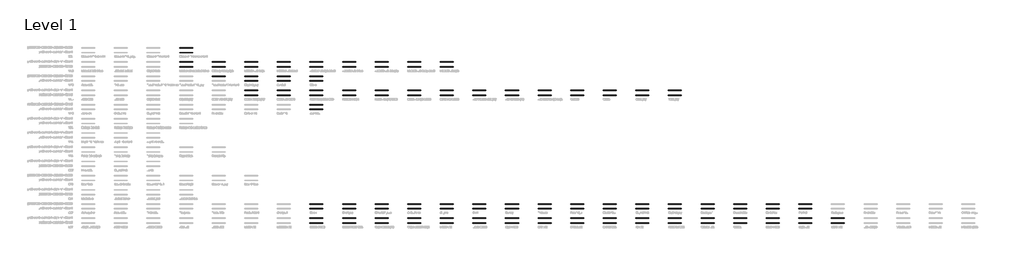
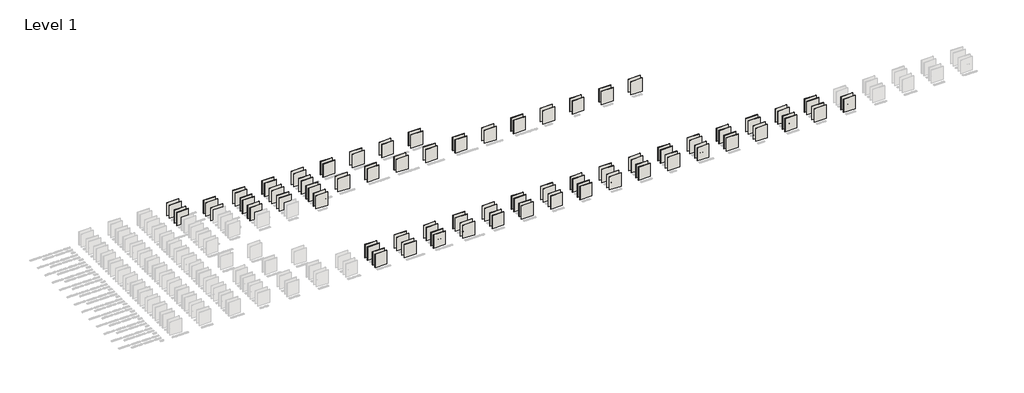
# One storey, part 2 of 110: 123 walls.
"""IFC4 building model written with IfcOpenShell, lengths in millimetres."""

from ifc_helpers import new_model, si_unit, origin, origin_with_axes, place, context, project, spatial, polyline, outline, extrude, element, save

model = new_model("IFC4")

# Units and contexts
model_context = context("Model", 3, world=origin())
ifc_project = project(units=[si_unit("LENGTHUNIT", "METRE", prefix="MILLI")], contexts=[model_context])

# Site, building, storey
site = spatial("IfcSite", under=ifc_project)
building = spatial("IfcBuilding", under=site)
storey = spatial("IfcBuildingStorey", under=building, Name="Level 1", Elevation=0.0)

# Walls
placement = place(None, origin())
element("IfcWall", 1, ObjectType="BERSfr_22_WA_parois de séparation - goujons métalliques - Clicwall BST Carrara creamy 2785x600x10 mm_Unilin", at=placement, inside=storey, context=model_context, shape_type="SweptSolid", body=[
    extrude(outline(polyline([(72694.8, 1179.2), (69342.0, 1179.2), (69342.0, 1259.2), (72694.8, 1259.2), (72694.8, 1179.2)])), origin_with_axes(), (0.0, 0.0, 1.0), 4000.0),
])
element("IfcWall", 2, ObjectType="BERSfr_22_WA_parois de séparation - goujons métalliques - panneau de particules - Clicwall BST Carrara creamy 2785x600x10 mm_Unilin", at=placement, inside=storey, context=model_context, shape_type="SweptSolid", body=[
    extrude(outline(polyline([(72694.8, 2392.4), (69342.0, 2392.4), (69342.0, 2484.4), (72694.8, 2484.4), (72694.8, 2392.4)])), origin_with_axes(), (0.0, 0.0, 1.0), 4000.0),
])
element("IfcWall", 3, ObjectType="BERSfr_22_WA_parois de séparation - goujons métalliques - Clicwall BST Carrara frosted white 2785x600x10 mm_Unilin", at=placement, inside=storey, context=model_context, shape_type="SweptSolid", body=[
    extrude(outline(polyline([(81076.8, 1179.2), (77724.0, 1179.2), (77724.0, 1259.2), (81076.8, 1259.2), (81076.8, 1179.2)])), origin_with_axes(), (0.0, 0.0, 1.0), 4000.0),
])
element("IfcWall", 4, ObjectType="BERSfr_22_WA_parois de séparation - goujons métalliques - panneau de particules - Clicwall BST Carrara frosted white 2785x600x10 mm_Unilin", at=placement, inside=storey, context=model_context, shape_type="SweptSolid", body=[
    extrude(outline(polyline([(81076.8, 2392.4), (77724.0, 2392.4), (77724.0, 2484.4), (81076.8, 2484.4), (81076.8, 2392.4)])), origin_with_axes(), (0.0, 0.0, 1.0), 4000.0),
])
element("IfcWall", 5, ObjectType="BERSfr_22_WA_parois de séparation - goujons métalliques - Clicwall BST Ceppo mineral grey 2785x600x10 mm_Unilin", at=placement, inside=storey, context=model_context, shape_type="SweptSolid", body=[
    extrude(outline(polyline([(89458.8, 1179.2), (86106.0, 1179.2), (86106.0, 1259.2), (89458.8, 1259.2), (89458.8, 1179.2)])), origin_with_axes(), (0.0, 0.0, 1.0), 4000.0),
])
element("IfcWall", 6, ObjectType="BERSfr_22_WA_parois de séparation - goujons métalliques - panneau de particules - Clicwall BST Ceppo mineral grey 2785x600x10 mm_Unilin", at=placement, inside=storey, context=model_context, shape_type="SweptSolid", body=[
    extrude(outline(polyline([(89458.8, 2392.4), (86106.0, 2392.4), (86106.0, 2484.4), (89458.8, 2484.4), (89458.8, 2392.4)])), origin_with_axes(), (0.0, 0.0, 1.0), 4000.0),
])
element("IfcWall", 7, ObjectType="BERSfr_22_WA_parois de séparation - goujons métalliques - Clicwall BST Ceppo seashore beige 2785x600x10 mm_Unilin", at=placement, inside=storey, context=model_context, shape_type="SweptSolid", body=[
    extrude(outline(polyline([(97840.8, 1179.2), (94488.0, 1179.2), (94488.0, 1259.2), (97840.8, 1259.2), (97840.8, 1179.2)])), origin_with_axes(), (0.0, 0.0, 1.0), 4000.0),
])
element("IfcWall", 8, ObjectType="BERSfr_22_WA_parois de séparation - goujons métalliques - panneau de particules - Clicwall BST Ceppo seashore beige 2785x600x10 mm_Unilin", at=placement, inside=storey, context=model_context, shape_type="SweptSolid", body=[
    extrude(outline(polyline([(97840.8, 2392.4), (94488.0, 2392.4), (94488.0, 2484.4), (97840.8, 2484.4), (97840.8, 2392.4)])), origin_with_axes(), (0.0, 0.0, 1.0), 4000.0),
])
element("IfcWall", 9, ObjectType="BERSfr_22_WA_parois de séparation - goujons métalliques - Clicwall BST Delano Oak 2785x600x10 mm_Unilin", at=placement, inside=storey, context=model_context, shape_type="SweptSolid", body=[
    extrude(outline(polyline([(106222.8, 1179.2), (102870.0, 1179.2), (102870.0, 1259.2), (106222.8, 1259.2), (106222.8, 1179.2)])), origin_with_axes(), (0.0, 0.0, 1.0), 4000.0),
])
element("IfcWall", 10, ObjectType="BERSfr_22_WA_parois de séparation - goujons métalliques - panneau de particules - Clicwall BST Delano Oak 2785x600x10 mm_Unilin", at=placement, inside=storey, context=model_context, shape_type="SweptSolid", body=[
    extrude(outline(polyline([(106222.8, 2392.4), (102870.0, 2392.4), (102870.0, 2484.4), (106222.8, 2484.4), (106222.8, 2392.4)])), origin_with_axes(), (0.0, 0.0, 1.0), 4000.0),
])
element("IfcWall", 11, ObjectType="BERSfr_22_WA_parois de séparation - goujons métalliques - Clicwall BST Dinara Walnut 2785x600x10 mm_Unilin", at=placement, inside=storey, context=model_context, shape_type="SweptSolid", body=[
    extrude(outline(polyline([(114604.8, 1179.2), (111252.0, 1179.2), (111252.0, 1259.2), (114604.8, 1259.2), (114604.8, 1179.2)])), origin_with_axes(), (0.0, 0.0, 1.0), 4000.0),
])
element("IfcWall", 12, ObjectType="BERSfr_22_WA_parois de séparation - goujons métalliques - panneau de particules - Clicwall BST Dinara Walnut 2785x600x10 mm_Unilin", at=placement, inside=storey, context=model_context, shape_type="SweptSolid", body=[
    extrude(outline(polyline([(114604.8, 2392.4), (111252.0, 2392.4), (111252.0, 2484.4), (114604.8, 2484.4), (114604.8, 2392.4)])), origin_with_axes(), (0.0, 0.0, 1.0), 4000.0),
])
element("IfcWall", 13, ObjectType="BERSfr_22_WA_parois de séparation - goujons métalliques - Clicwall BST Eiger Walnut 2785x600x10 mm_Unilin", at=placement, inside=storey, context=model_context, shape_type="SweptSolid", body=[
    extrude(outline(polyline([(122986.8, 1179.2), (119634.0, 1179.2), (119634.0, 1259.2), (122986.8, 1259.2), (122986.8, 1179.2)])), origin_with_axes(), (0.0, 0.0, 1.0), 4000.0),
])
element("IfcWall", 14, ObjectType="BERSfr_22_WA_parois de séparation - goujons métalliques - panneau de particules - Clicwall BST Eiger Walnut 2785x600x10 mm_Unilin", at=placement, inside=storey, context=model_context, shape_type="SweptSolid", body=[
    extrude(outline(polyline([(122986.8, 2392.4), (119634.0, 2392.4), (119634.0, 2484.4), (122986.8, 2484.4), (122986.8, 2392.4)])), origin_with_axes(), (0.0, 0.0, 1.0), 4000.0),
])
element("IfcWall", 15, ObjectType="BERSfr_22_WA_parois de séparation - goujons métalliques - Clicwall BST Etna Oak 2785x600x10 mm_Unilin", at=placement, inside=storey, context=model_context, shape_type="SweptSolid", body=[
    extrude(outline(polyline([(131368.8, 1179.2), (128016.0, 1179.2), (128016.0, 1259.2), (131368.8, 1259.2), (131368.8, 1179.2)])), origin_with_axes(), (0.0, 0.0, 1.0), 4000.0),
])
element("IfcWall", 16, ObjectType="BERSfr_22_WA_parois de séparation - goujons métalliques - panneau de particules - Clicwall BST Etna Oak 2785x600x10 mm_Unilin", at=placement, inside=storey, context=model_context, shape_type="SweptSolid", body=[
    extrude(outline(polyline([(131368.8, 2392.4), (128016.0, 2392.4), (128016.0, 2484.4), (131368.8, 2484.4), (131368.8, 2392.4)])), origin_with_axes(), (0.0, 0.0, 1.0), 4000.0),
])
element("IfcWall", 17, ObjectType="BERSfr_22_WA_parois de séparation - goujons métalliques - Clicwall BST Everest oak 2785x600x10 mm_Unilin", at=placement, inside=storey, context=model_context, shape_type="SweptSolid", body=[
    extrude(outline(polyline([(139750.8, 1179.2), (136398.0, 1179.2), (136398.0, 1259.2), (139750.8, 1259.2), (139750.8, 1179.2)])), origin_with_axes(), (0.0, 0.0, 1.0), 4000.0),
])
element("IfcWall", 18, ObjectType="BERSfr_22_WA_parois de séparation - goujons métalliques - panneau de particules - Clicwall BST Everest oak 2785x600x10 mm_Unilin", at=placement, inside=storey, context=model_context, shape_type="SweptSolid", body=[
    extrude(outline(polyline([(139750.8, 2392.4), (136398.0, 2392.4), (136398.0, 2484.4), (139750.8, 2484.4), (139750.8, 2392.4)])), origin_with_axes(), (0.0, 0.0, 1.0), 4000.0),
])
element("IfcWall", 19, ObjectType="BERSfr_22_WA_parois de séparation - goujons métalliques - Clicwall BST Everest white 2785x600x10 mm_Unilin", at=placement, inside=storey, context=model_context, shape_type="SweptSolid", body=[
    extrude(outline(polyline([(148132.8, 1179.2), (144780.0, 1179.2), (144780.0, 1259.2), (148132.8, 1259.2), (148132.8, 1179.2)])), origin_with_axes(), (0.0, 0.0, 1.0), 4000.0),
])
element("IfcWall", 20, ObjectType="BERSfr_22_WA_parois de séparation - goujons métalliques - panneau de particules - Clicwall BST Everest white 2785x600x10 mm_Unilin", at=placement, inside=storey, context=model_context, shape_type="SweptSolid", body=[
    extrude(outline(polyline([(148132.8, 2392.4), (144780.0, 2392.4), (144780.0, 2484.4), (148132.8, 2484.4), (148132.8, 2392.4)])), origin_with_axes(), (0.0, 0.0, 1.0), 4000.0),
])
element("IfcWall", 21, ObjectType="BERSfr_22_WA_parois de séparation - goujons métalliques - Clicwall BST Fiji Oak  2785x600x10 mm_Unilin", at=placement, inside=storey, context=model_context, shape_type="SweptSolid", body=[
    extrude(outline(polyline([(156514.8, 1179.2), (153162.0, 1179.2), (153162.0, 1259.2), (156514.8, 1259.2), (156514.8, 1179.2)])), origin_with_axes(), (0.0, 0.0, 1.0), 4000.0),
])
element("IfcWall", 22, ObjectType="BERSfr_22_WA_parois de séparation - goujons métalliques - panneau de particules - Clicwall BST Fiji Oak  2785x600x10 mm_Unilin", at=placement, inside=storey, context=model_context, shape_type="SweptSolid", body=[
    extrude(outline(polyline([(156514.8, 2392.4), (153162.0, 2392.4), (153162.0, 2484.4), (156514.8, 2484.4), (156514.8, 2392.4)])), origin_with_axes(), (0.0, 0.0, 1.0), 4000.0),
])
element("IfcWall", 23, ObjectType="BERSfr_22_WA_parois de séparation - goujons métalliques - Clicwall BST Flakewood white 2785x600x10 mm_Unilin", at=placement, inside=storey, context=model_context, shape_type="SweptSolid", body=[
    extrude(outline(polyline([(164896.8, 1179.2), (161544.0, 1179.2), (161544.0, 1259.2), (164896.8, 1259.2), (164896.8, 1179.2)])), origin_with_axes(), (0.0, 0.0, 1.0), 4000.0),
])
element("IfcWall", 24, ObjectType="BERSfr_22_WA_parois de séparation - goujons métalliques - panneau de particules - Clicwall BST Flakewood white 2785x600x10 mm_Unilin", at=placement, inside=storey, context=model_context, shape_type="SweptSolid", body=[
    extrude(outline(polyline([(164896.8, 2392.4), (161544.0, 2392.4), (161544.0, 2484.4), (164896.8, 2484.4), (164896.8, 2392.4)])), origin_with_axes(), (0.0, 0.0, 1.0), 4000.0),
])
element("IfcWall", 25, ObjectType="BERSfr_22_WA_parois de séparation - goujons métalliques - Clicwall BST Garonne Oak 2785x600x10 mm_Unilin", at=placement, inside=storey, context=model_context, shape_type="SweptSolid", body=[
    extrude(outline(polyline([(173278.8, 1179.2), (169926.0, 1179.2), (169926.0, 1259.2), (173278.8, 1259.2), (173278.8, 1179.2)])), origin_with_axes(), (0.0, 0.0, 1.0), 4000.0),
])
element("IfcWall", 26, ObjectType="BERSfr_22_WA_parois de séparation - goujons métalliques - panneau de particules - Clicwall BST Garonne Oak 2785x600x10 mm_Unilin", at=placement, inside=storey, context=model_context, shape_type="SweptSolid", body=[
    extrude(outline(polyline([(173278.8, 2392.4), (169926.0, 2392.4), (169926.0, 2484.4), (173278.8, 2484.4), (173278.8, 2392.4)])), origin_with_axes(), (0.0, 0.0, 1.0), 4000.0),
])
element("IfcWall", 27, ObjectType="BERSfr_22_WA_parois de séparation - goujons métalliques - Clicwall BST Granulo 2785x600x10 mm_Unilin", at=placement, inside=storey, context=model_context, shape_type="SweptSolid", body=[
    extrude(outline(polyline([(181660.8, 1179.2), (178308.0, 1179.2), (178308.0, 1259.2), (181660.8, 1259.2), (181660.8, 1179.2)])), origin_with_axes(), (0.0, 0.0, 1.0), 4000.0),
])
element("IfcWall", 28, ObjectType="BERSfr_22_WA_parois de séparation - goujons métalliques - panneau de particules - Clicwall BST Granulo 2785x600x10 mm_Unilin", at=placement, inside=storey, context=model_context, shape_type="SweptSolid", body=[
    extrude(outline(polyline([(181660.8, 2392.4), (178308.0, 2392.4), (178308.0, 2484.4), (181660.8, 2484.4), (181660.8, 2392.4)])), origin_with_axes(), (0.0, 0.0, 1.0), 4000.0),
])
element("IfcWall", 29, ObjectType="BERSfr_22_WA_parois de séparation - goujons métalliques - Clicwall BST Italian Walnut 2785x600x10 mm_Unilin", at=placement, inside=storey, context=model_context, shape_type="SweptSolid", body=[
    extrude(outline(polyline([(190042.8, 1179.2), (186690.0, 1179.2), (186690.0, 1259.2), (190042.8, 1259.2), (190042.8, 1179.2)])), origin_with_axes(), (0.0, 0.0, 1.0), 4000.0),
])
element("IfcWall", 30, ObjectType="BERSfr_22_WA_parois de séparation - goujons métalliques - panneau de particules - Clicwall BST Italian Walnut 2785x600x10 mm_Unilin", at=placement, inside=storey, context=model_context, shape_type="SweptSolid", body=[
    extrude(outline(polyline([(190042.8, 2392.4), (186690.0, 2392.4), (186690.0, 2484.4), (190042.8, 2484.4), (190042.8, 2392.4)])), origin_with_axes(), (0.0, 0.0, 1.0), 4000.0),
])
element("IfcWall", 31, ObjectType="BERSfr_22_WA_parois de séparation - goujons métalliques - Clicwall BST Logan Oak 2785x600x10 mm_Unilin", at=placement, inside=storey, context=model_context, shape_type="SweptSolid", body=[
    extrude(outline(polyline([(198424.8, 1179.2), (195072.0, 1179.2), (195072.0, 1259.2), (198424.8, 1259.2), (198424.8, 1179.2)])), origin_with_axes(), (0.0, 0.0, 1.0), 4000.0),
])
element("IfcWall", 32, ObjectType="BERSfr_22_WA_parois de séparation - goujons métalliques - panneau de particules - Clicwall BST Logan Oak 2785x600x10 mm_Unilin", at=placement, inside=storey, context=model_context, shape_type="SweptSolid", body=[
    extrude(outline(polyline([(198424.8, 2392.4), (195072.0, 2392.4), (195072.0, 2484.4), (198424.8, 2484.4), (198424.8, 2392.4)])), origin_with_axes(), (0.0, 0.0, 1.0), 4000.0),
])
element("IfcWall", 33, ObjectType="BERSfr_22_WA_parois de séparation - goujons métalliques - Clicwall BST Marne Oak 2785x600x10 mm_Unilin", at=placement, inside=storey, context=model_context, shape_type="SweptSolid", body=[
    extrude(outline(polyline([(206806.8, 1179.2), (203454.0, 1179.2), (203454.0, 1259.2), (206806.8, 1259.2), (206806.8, 1179.2)])), origin_with_axes(), (0.0, 0.0, 1.0), 4000.0),
])
element("IfcWall", 34, ObjectType="BERSfr_22_WA_parois de séparation - goujons métalliques - panneau de particules - Clicwall BST Marne Oak 2785x600x10 mm_Unilin", at=placement, inside=storey, context=model_context, shape_type="SweptSolid", body=[
    extrude(outline(polyline([(206806.8, 2392.4), (203454.0, 2392.4), (203454.0, 2484.4), (206806.8, 2484.4), (206806.8, 2392.4)])), origin_with_axes(), (0.0, 0.0, 1.0), 4000.0),
])
element("IfcWall", 35, ObjectType="BERSfr_22_WA_parois de séparation - goujons métalliques - Clicwall CST Choco 2785x600x10 mm_Unilin", at=placement, inside=storey, context=model_context, shape_type="SweptSolid", body=[
    extrude(outline(polyline([(72694.8, 4836.8), (69342.0, 4836.8), (69342.0, 4916.8), (72694.8, 4916.8), (72694.8, 4836.8)])), origin_with_axes(), (0.0, 0.0, 1.0), 4000.0),
])
element("IfcWall", 36, ObjectType="BERSfr_22_WA_parois de séparation - goujons métalliques - panneau de particules - Clicwall CST Choco 2785x600x10 mm_Unilin", at=placement, inside=storey, context=model_context, shape_type="SweptSolid", body=[
    extrude(outline(polyline([(72694.8, 6050.0), (69342.0, 6050.0), (69342.0, 6142.0), (72694.8, 6142.0), (72694.8, 6050.0)])), origin_with_axes(), (0.0, 0.0, 1.0), 4000.0),
])
element("IfcWall", 37, ObjectType="BERSfr_22_WA_parois de séparation - goujons métalliques - Clicwall CST Cloud grey 2785x600x10 mm_Unilin", at=placement, inside=storey, context=model_context, shape_type="SweptSolid", body=[
    extrude(outline(polyline([(81076.8, 4836.8), (77724.0, 4836.8), (77724.0, 4916.8), (81076.8, 4916.8), (81076.8, 4836.8)])), origin_with_axes(), (0.0, 0.0, 1.0), 4000.0),
])
element("IfcWall", 38, ObjectType="BERSfr_22_WA_parois de séparation - goujons métalliques - panneau de particules - Clicwall CST Cloud grey 2785x600x10 mm_Unilin", at=placement, inside=storey, context=model_context, shape_type="SweptSolid", body=[
    extrude(outline(polyline([(81076.8, 6050.0), (77724.0, 6050.0), (77724.0, 6142.0), (81076.8, 6142.0), (81076.8, 6050.0)])), origin_with_axes(), (0.0, 0.0, 1.0), 4000.0),
])
element("IfcWall", 39, ObjectType="BERSfr_22_WA_parois de séparation - goujons métalliques - Clicwall CST Cloverfield green 2785x600x10 mm_Unilin", at=placement, inside=storey, context=model_context, shape_type="SweptSolid", body=[
    extrude(outline(polyline([(89458.8, 4836.8), (86106.0, 4836.8), (86106.0, 4916.8), (89458.8, 4916.8), (89458.8, 4836.8)])), origin_with_axes(), (0.0, 0.0, 1.0), 4000.0),
])
element("IfcWall", 40, ObjectType="BERSfr_22_WA_parois de séparation - goujons métalliques - panneau de particules - Clicwall CST Cloverfield green 2785x600x10 mm_Unilin", at=placement, inside=storey, context=model_context, shape_type="SweptSolid", body=[
    extrude(outline(polyline([(89458.8, 6050.0), (86106.0, 6050.0), (86106.0, 6142.0), (89458.8, 6142.0), (89458.8, 6050.0)])), origin_with_axes(), (0.0, 0.0, 1.0), 4000.0),
])
element("IfcWall", 41, ObjectType="BERSfr_22_WA_parois de séparation - goujons métalliques - Clicwall CST Coffee brown 2785x600x10 mm_Unilin", at=placement, inside=storey, context=model_context, shape_type="SweptSolid", body=[
    extrude(outline(polyline([(97840.8, 4836.8), (94488.0, 4836.8), (94488.0, 4916.8), (97840.8, 4916.8), (97840.8, 4836.8)])), origin_with_axes(), (0.0, 0.0, 1.0), 4000.0),
])
element("IfcWall", 42, ObjectType="BERSfr_22_WA_parois de séparation - goujons métalliques - panneau de particules - Clicwall CST Coffee brown 2785x600x10 mm_Unilin", at=placement, inside=storey, context=model_context, shape_type="SweptSolid", body=[
    extrude(outline(polyline([(97840.8, 6050.0), (94488.0, 6050.0), (94488.0, 6142.0), (97840.8, 6142.0), (97840.8, 6050.0)])), origin_with_axes(), (0.0, 0.0, 1.0), 4000.0),
])
element("IfcWall", 43, ObjectType="BERSfr_22_WA_parois de séparation - goujons métalliques - Clicwall CST Cognac 2785x600x10 mm_Unilin", at=placement, inside=storey, context=model_context, shape_type="SweptSolid", body=[
    extrude(outline(polyline([(106222.8, 4836.8), (102870.0, 4836.8), (102870.0, 4916.8), (106222.8, 4916.8), (106222.8, 4836.8)])), origin_with_axes(), (0.0, 0.0, 1.0), 4000.0),
])
element("IfcWall", 44, ObjectType="BERSfr_22_WA_parois de séparation - goujons métalliques - panneau de particules - Clicwall CST Cognac 2785x600x10 mm_Unilin", at=placement, inside=storey, context=model_context, shape_type="SweptSolid", body=[
    extrude(outline(polyline([(106222.8, 6050.0), (102870.0, 6050.0), (102870.0, 6142.0), (106222.8, 6142.0), (106222.8, 6050.0)])), origin_with_axes(), (0.0, 0.0, 1.0), 4000.0),
])
element("IfcWall", 45, ObjectType="BERSfr_22_WA_parois de séparation - goujons métalliques - Clicwall CST Coral 2785x600x10 mm_Unilin", at=placement, inside=storey, context=model_context, shape_type="SweptSolid", body=[
    extrude(outline(polyline([(114604.8, 4836.8), (111252.0, 4836.8), (111252.0, 4916.8), (114604.8, 4916.8), (114604.8, 4836.8)])), origin_with_axes(), (0.0, 0.0, 1.0), 4000.0),
])
element("IfcWall", 46, ObjectType="BERSfr_22_WA_parois de séparation - goujons métalliques - panneau de particules - Clicwall CST Coral 2785x600x10 mm_Unilin", at=placement, inside=storey, context=model_context, shape_type="SweptSolid", body=[
    extrude(outline(polyline([(114604.8, 6050.0), (111252.0, 6050.0), (111252.0, 6142.0), (114604.8, 6142.0), (114604.8, 6050.0)])), origin_with_axes(), (0.0, 0.0, 1.0), 4000.0),
])
element("IfcWall", 47, ObjectType="BERSfr_22_WA_parois de séparation - goujons métalliques - Clicwall CST Creamy 2785x600x10 mm_Unilin", at=placement, inside=storey, context=model_context, shape_type="SweptSolid", body=[
    extrude(outline(polyline([(122986.8, 4836.8), (119634.0, 4836.8), (119634.0, 4916.8), (122986.8, 4916.8), (122986.8, 4836.8)])), origin_with_axes(), (0.0, 0.0, 1.0), 4000.0),
])
element("IfcWall", 48, ObjectType="BERSfr_22_WA_parois de séparation - goujons métalliques - panneau de particules - Clicwall CST Creamy 2785x600x10 mm_Unilin", at=placement, inside=storey, context=model_context, shape_type="SweptSolid", body=[
    extrude(outline(polyline([(122986.8, 6050.0), (119634.0, 6050.0), (119634.0, 6142.0), (122986.8, 6142.0), (122986.8, 6050.0)])), origin_with_axes(), (0.0, 0.0, 1.0), 4000.0),
])
element("IfcWall", 49, ObjectType="BERSfr_22_WA_parois de séparation - goujons métalliques - Clicwall CST Dark ecru 2785x600x10 mm_Unilin", at=placement, inside=storey, context=model_context, shape_type="SweptSolid", body=[
    extrude(outline(polyline([(131368.8, 4836.8), (128016.0, 4836.8), (128016.0, 4916.8), (131368.8, 4916.8), (131368.8, 4836.8)])), origin_with_axes(), (0.0, 0.0, 1.0), 4000.0),
])
element("IfcWall", 50, ObjectType="BERSfr_22_WA_parois de séparation - goujons métalliques - panneau de particules - Clicwall CST Dark ecru 2785x600x10 mm_Unilin", at=placement, inside=storey, context=model_context, shape_type="SweptSolid", body=[
    extrude(outline(polyline([(131368.8, 6050.0), (128016.0, 6050.0), (128016.0, 6142.0), (131368.8, 6142.0), (131368.8, 6050.0)])), origin_with_axes(), (0.0, 0.0, 1.0), 4000.0),
])
element("IfcWall", 51, ObjectType="BERSfr_22_WA_parois de séparation - goujons métalliques - Clicwall CST Dune beige 2785x600x10 mm_Unilin", at=placement, inside=storey, context=model_context, shape_type="SweptSolid", body=[
    extrude(outline(polyline([(139750.8, 4836.8), (136398.0, 4836.8), (136398.0, 4916.8), (139750.8, 4916.8), (139750.8, 4836.8)])), origin_with_axes(), (0.0, 0.0, 1.0), 4000.0),
])
element("IfcWall", 52, ObjectType="BERSfr_22_WA_parois de séparation - goujons métalliques - panneau de particules - Clicwall CST Dune beige 2785x600x10 mm_Unilin", at=placement, inside=storey, context=model_context, shape_type="SweptSolid", body=[
    extrude(outline(polyline([(139750.8, 6050.0), (136398.0, 6050.0), (136398.0, 6142.0), (139750.8, 6142.0), (139750.8, 6050.0)])), origin_with_axes(), (0.0, 0.0, 1.0), 4000.0),
])
element("IfcWall", 53, ObjectType="BERSfr_22_WA_parois de séparation - goujons métalliques - Clicwall CST Electric blue 2785x600x10 mm_Unilin", at=placement, inside=storey, context=model_context, shape_type="SweptSolid", body=[
    extrude(outline(polyline([(148132.8, 4836.8), (144780.0, 4836.8), (144780.0, 4916.8), (148132.8, 4916.8), (148132.8, 4836.8)])), origin_with_axes(), (0.0, 0.0, 1.0), 4000.0),
])
element("IfcWall", 54, ObjectType="BERSfr_22_WA_parois de séparation - goujons métalliques - panneau de particules - Clicwall CST Electric blue 2785x600x10 mm_Unilin", at=placement, inside=storey, context=model_context, shape_type="SweptSolid", body=[
    extrude(outline(polyline([(148132.8, 6050.0), (144780.0, 6050.0), (144780.0, 6142.0), (148132.8, 6142.0), (148132.8, 6050.0)])), origin_with_axes(), (0.0, 0.0, 1.0), 4000.0),
])
element("IfcWall", 55, ObjectType="BERSfr_22_WA_parois de séparation - goujons métalliques - Clicwall CST Elegant black 2785x600x10 mm_Unilin", at=placement, inside=storey, context=model_context, shape_type="SweptSolid", body=[
    extrude(outline(polyline([(156514.8, 4836.8), (153162.0, 4836.8), (153162.0, 4916.8), (156514.8, 4916.8), (156514.8, 4836.8)])), origin_with_axes(), (0.0, 0.0, 1.0), 4000.0),
])
element("IfcWall", 56, ObjectType="BERSfr_22_WA_parois de séparation - goujons métalliques - panneau de particules - Clicwall CST Elegant black 2785x600x10 mm_Unilin", at=placement, inside=storey, context=model_context, shape_type="SweptSolid", body=[
    extrude(outline(polyline([(156514.8, 6050.0), (153162.0, 6050.0), (153162.0, 6142.0), (156514.8, 6142.0), (156514.8, 6050.0)])), origin_with_axes(), (0.0, 0.0, 1.0), 4000.0),
])
element("IfcWall", 57, ObjectType="BERSfr_22_WA_parois de séparation - goujons métalliques - Clicwall CST Elephant grey 2785x600x10 mm_Unilin", at=placement, inside=storey, context=model_context, shape_type="SweptSolid", body=[
    extrude(outline(polyline([(164896.8, 4836.8), (161544.0, 4836.8), (161544.0, 4916.8), (164896.8, 4916.8), (164896.8, 4836.8)])), origin_with_axes(), (0.0, 0.0, 1.0), 4000.0),
])
element("IfcWall", 58, ObjectType="BERSfr_22_WA_parois de séparation - goujons métalliques - panneau de particules - Clicwall CST Elephant grey 2785x600x10 mm_Unilin", at=placement, inside=storey, context=model_context, shape_type="SweptSolid", body=[
    extrude(outline(polyline([(164896.8, 6050.0), (161544.0, 6050.0), (161544.0, 6142.0), (164896.8, 6142.0), (164896.8, 6050.0)])), origin_with_axes(), (0.0, 0.0, 1.0), 4000.0),
])
element("IfcWall", 59, ObjectType="BERSfr_22_WA_parois de séparation - goujons métalliques - Clicwall CST Evening red 2785x600x10 mm_Unilin", at=placement, inside=storey, context=model_context, shape_type="SweptSolid", body=[
    extrude(outline(polyline([(173278.8, 4836.8), (169926.0, 4836.8), (169926.0, 4916.8), (173278.8, 4916.8), (173278.8, 4836.8)])), origin_with_axes(), (0.0, 0.0, 1.0), 4000.0),
])
element("IfcWall", 60, ObjectType="BERSfr_22_WA_parois de séparation - goujons métalliques - panneau de particules - Clicwall CST Evening red 2785x600x10 mm_Unilin", at=placement, inside=storey, context=model_context, shape_type="SweptSolid", body=[
    extrude(outline(polyline([(173278.8, 6050.0), (169926.0, 6050.0), (169926.0, 6142.0), (173278.8, 6142.0), (173278.8, 6050.0)])), origin_with_axes(), (0.0, 0.0, 1.0), 4000.0),
])
element("IfcWall", 61, ObjectType="BERSfr_22_WA_parois de séparation - goujons métalliques - Clicwall CST Everest white 2785x600x10 mm_Unilin", at=placement, inside=storey, context=model_context, shape_type="SweptSolid", body=[
    extrude(outline(polyline([(181660.8, 4836.8), (178308.0, 4836.8), (178308.0, 4916.8), (181660.8, 4916.8), (181660.8, 4836.8)])), origin_with_axes(), (0.0, 0.0, 1.0), 4000.0),
])
element("IfcWall", 62, ObjectType="BERSfr_22_WA_parois de séparation - goujons métalliques - panneau de particules - Clicwall CST Everest white 2785x600x10 mm_Unilin", at=placement, inside=storey, context=model_context, shape_type="SweptSolid", body=[
    extrude(outline(polyline([(181660.8, 6050.0), (178308.0, 6050.0), (178308.0, 6142.0), (181660.8, 6142.0), (181660.8, 6050.0)])), origin_with_axes(), (0.0, 0.0, 1.0), 4000.0),
])
element("IfcWall", 63, ObjectType="BERSfr_22_WA_parois de séparation - goujons métalliques - Clicwall CST Exotic blue 2785x600x10 mm_Unilin", at=placement, inside=storey, context=model_context, shape_type="SweptSolid", body=[
    extrude(outline(polyline([(190042.8, 4836.8), (186690.0, 4836.8), (186690.0, 4916.8), (190042.8, 4916.8), (190042.8, 4836.8)])), origin_with_axes(), (0.0, 0.0, 1.0), 4000.0),
])
element("IfcWall", 64, ObjectType="BERSfr_22_WA_parois de séparation - goujons métalliques - panneau de particules - Clicwall CST Exotic blue 2785x600x10 mm_Unilin", at=placement, inside=storey, context=model_context, shape_type="SweptSolid", body=[
    extrude(outline(polyline([(190042.8, 6050.0), (186690.0, 6050.0), (186690.0, 6142.0), (190042.8, 6142.0), (190042.8, 6050.0)])), origin_with_axes(), (0.0, 0.0, 1.0), 4000.0),
])
element("IfcWall", 65, ObjectType="BERSfr_22_WA_parois de séparation - goujons métalliques - Clicwall CST Fondant  2785x600x10 mm_Unilin", at=placement, inside=storey, context=model_context, shape_type="SweptSolid", body=[
    extrude(outline(polyline([(198424.8, 4836.8), (195072.0, 4836.8), (195072.0, 4916.8), (198424.8, 4916.8), (198424.8, 4836.8)])), origin_with_axes(), (0.0, 0.0, 1.0), 4000.0),
])
element("IfcWall", 66, ObjectType="BERSfr_22_WA_parois de séparation - goujons métalliques - panneau de particules - Clicwall CST Fondant  2785x600x10 mm_Unilin", at=placement, inside=storey, context=model_context, shape_type="SweptSolid", body=[
    extrude(outline(polyline([(198424.8, 6050.0), (195072.0, 6050.0), (195072.0, 6142.0), (198424.8, 6142.0), (198424.8, 6050.0)])), origin_with_axes(), (0.0, 0.0, 1.0), 4000.0),
])
element("IfcWall", 67, ObjectType="BERSfr_22_WA_parois de séparation - goujons métalliques - Clicwall W03 Rena Pine 2785x600x10 mm_Unilin", at=placement, inside=storey, context=model_context, shape_type="SweptSolid", body=[
    extrude(outline(polyline([(72694.8, 30440.0), (69342.0, 30440.0), (69342.0, 30520.0), (72694.8, 30520.0), (72694.8, 30440.0)])), origin_with_axes(), (0.0, 0.0, 1.0), 4000.0),
])
element("IfcWall", 68, ObjectType="BERSfr_22_WA_parois de séparation - goujons métalliques - panneau de particules - Clicwall W03 Rena Pine 2785x600x10 mm_Unilin", at=placement, inside=storey, context=model_context, shape_type="SweptSolid", body=[
    extrude(outline(polyline([(72694.8, 31653.2), (69342.0, 31653.2), (69342.0, 31745.2), (72694.8, 31745.2), (72694.8, 31653.2)])), origin_with_axes(), (0.0, 0.0, 1.0), 4000.0),
])
element("IfcWall", 69, ObjectType="BERSfr_22_WA_parois de séparation - goujons métalliques - Clicwall W04 Emilia Oak light grey 2785x600x10 mm_Unilin", at=placement, inside=storey, context=model_context, shape_type="SweptSolid", body=[
    extrude(outline(polyline([(55930.8, 34097.6), (52578.0, 34097.6), (52578.0, 34177.6), (55930.8, 34177.6), (55930.8, 34097.6)])), origin_with_axes(), (0.0, 0.0, 1.0), 4000.0),
])
element("IfcWall", 70, ObjectType="BERSfr_22_WA_parois de séparation - goujons métalliques - panneau de particules - Clicwall W04 Emilia Oak light grey 2785x600x10 mm_Unilin", at=placement, inside=storey, context=model_context, shape_type="SweptSolid", body=[
    extrude(outline(polyline([(55930.8, 35310.8), (52578.0, 35310.8), (52578.0, 35402.8), (55930.8, 35402.8), (55930.8, 35310.8)])), origin_with_axes(), (0.0, 0.0, 1.0), 4000.0),
])
element("IfcWall", 71, ObjectType="BERSfr_22_WA_parois de séparation - goujons métalliques - Clicwall W04 Emilia Oak natural 2785x600x10 mm_Unilin", at=placement, inside=storey, context=model_context, shape_type="SweptSolid", body=[
    extrude(outline(polyline([(64312.8, 34097.6), (60960.0, 34097.6), (60960.0, 34177.6), (64312.8, 34177.6), (64312.8, 34097.6)])), origin_with_axes(), (0.0, 0.0, 1.0), 4000.0),
])
element("IfcWall", 72, ObjectType="BERSfr_22_WA_parois de séparation - goujons métalliques - panneau de particules - Clicwall W04 Emilia Oak natural 2785x600x10 mm_Unilin", at=placement, inside=storey, context=model_context, shape_type="SweptSolid", body=[
    extrude(outline(polyline([(64312.8, 35310.8), (60960.0, 35310.8), (60960.0, 35402.8), (64312.8, 35402.8), (64312.8, 35310.8)])), origin_with_axes(), (0.0, 0.0, 1.0), 4000.0),
])
element("IfcWall", 73, ObjectType="BERSfr_22_WA_parois de séparation - goujons métalliques - Clicwall W04 Flakewood painted white 2785x600x10 mm_Unilin", at=placement, inside=storey, context=model_context, shape_type="SweptSolid", body=[
    extrude(outline(polyline([(72694.8, 34097.6), (69342.0, 34097.6), (69342.0, 34177.6), (72694.8, 34177.6), (72694.8, 34097.6)])), origin_with_axes(), (0.0, 0.0, 1.0), 4000.0),
])
element("IfcWall", 74, ObjectType="BERSfr_22_WA_parois de séparation - goujons métalliques - panneau de particules - Clicwall W04 Flakewood painted white 2785x600x10 mm_Unilin", at=placement, inside=storey, context=model_context, shape_type="SweptSolid", body=[
    extrude(outline(polyline([(72694.8, 35310.8), (69342.0, 35310.8), (69342.0, 35402.8), (72694.8, 35402.8), (72694.8, 35310.8)])), origin_with_axes(), (0.0, 0.0, 1.0), 4000.0),
])
element("IfcWall", 75, ObjectType="BERSfr_22_WA_parois de séparation - goujons métalliques - Clicwall W04 Flakewood taupe 2785x600x10 mm_Unilin", at=placement, inside=storey, context=model_context, shape_type="SweptSolid", body=[
    extrude(outline(polyline([(81076.8, 34097.6), (77724.0, 34097.6), (77724.0, 34177.6), (81076.8, 34177.6), (81076.8, 34097.6)])), origin_with_axes(), (0.0, 0.0, 1.0), 4000.0),
])
element("IfcWall", 76, ObjectType="BERSfr_22_WA_parois de séparation - goujons métalliques - panneau de particules - Clicwall W04 Flakewood taupe 2785x600x10 mm_Unilin", at=placement, inside=storey, context=model_context, shape_type="SweptSolid", body=[
    extrude(outline(polyline([(81076.8, 35310.8), (77724.0, 35310.8), (77724.0, 35402.8), (81076.8, 35402.8), (81076.8, 35310.8)])), origin_with_axes(), (0.0, 0.0, 1.0), 4000.0),
])
element("IfcWall", 77, ObjectType="BERSfr_22_WA_parois de séparation - goujons métalliques - Clicwall W04 Nordic Pine grey brown 2785x600x10 mm_Unilin", at=placement, inside=storey, context=model_context, shape_type="SweptSolid", body=[
    extrude(outline(polyline([(89458.8, 34097.6), (86106.0, 34097.6), (86106.0, 34177.6), (89458.8, 34177.6), (89458.8, 34097.6)])), origin_with_axes(), (0.0, 0.0, 1.0), 4000.0),
])
element("IfcWall", 78, ObjectType="BERSfr_22_WA_parois de séparation - goujons métalliques - panneau de particules - Clicwall W04 Nordic Pine grey brown 2785x600x10 mm_Unilin", at=placement, inside=storey, context=model_context, shape_type="SweptSolid", body=[
    extrude(outline(polyline([(89458.8, 35310.8), (86106.0, 35310.8), (86106.0, 35402.8), (89458.8, 35402.8), (89458.8, 35310.8)])), origin_with_axes(), (0.0, 0.0, 1.0), 4000.0),
])
element("IfcWall", 79, ObjectType="BERSfr_22_WA_parois de séparation - goujons métalliques - Clicwall W04 Nordic Pine light natural 2785x600x10 mm_Unilin", at=placement, inside=storey, context=model_context, shape_type="SweptSolid", body=[
    extrude(outline(polyline([(97840.8, 34097.6), (94488.0, 34097.6), (94488.0, 34177.6), (97840.8, 34177.6), (97840.8, 34097.6)])), origin_with_axes(), (0.0, 0.0, 1.0), 4000.0),
])
element("IfcWall", 80, ObjectType="BERSfr_22_WA_parois de séparation - goujons métalliques - panneau de particules - Clicwall W04 Nordic Pine light natural 2785x600x10 mm_Unilin", at=placement, inside=storey, context=model_context, shape_type="SweptSolid", body=[
    extrude(outline(polyline([(97840.8, 35310.8), (94488.0, 35310.8), (94488.0, 35402.8), (97840.8, 35402.8), (97840.8, 35310.8)])), origin_with_axes(), (0.0, 0.0, 1.0), 4000.0),
])
element("IfcWall", 81, ObjectType="BERSfr_22_WA_parois de séparation - goujons métalliques - Clicwall W04 Nordic Pine natural 2785x600x10 mm_Unilin", at=placement, inside=storey, context=model_context, shape_type="SweptSolid", body=[
    extrude(outline(polyline([(106222.8, 34097.6), (102870.0, 34097.6), (102870.0, 34177.6), (106222.8, 34177.6), (106222.8, 34097.6)])), origin_with_axes(), (0.0, 0.0, 1.0), 4000.0),
])
element("IfcWall", 82, ObjectType="BERSfr_22_WA_parois de séparation - goujons métalliques - panneau de particules - Clicwall W04 Nordic Pine natural 2785x600x10 mm_Unilin", at=placement, inside=storey, context=model_context, shape_type="SweptSolid", body=[
    extrude(outline(polyline([(106222.8, 35310.8), (102870.0, 35310.8), (102870.0, 35402.8), (106222.8, 35402.8), (106222.8, 35310.8)])), origin_with_axes(), (0.0, 0.0, 1.0), 4000.0),
])
element("IfcWall", 83, ObjectType="BERSfr_22_WA_parois de séparation - goujons métalliques - Clicwall W04 Raw Concrete dark grey 2785x600x10 mm_Unilin", at=placement, inside=storey, context=model_context, shape_type="SweptSolid", body=[
    extrude(outline(polyline([(114604.8, 34097.6), (111252.0, 34097.6), (111252.0, 34177.6), (114604.8, 34177.6), (114604.8, 34097.6)])), origin_with_axes(), (0.0, 0.0, 1.0), 4000.0),
])
element("IfcWall", 84, ObjectType="BERSfr_22_WA_parois de séparation - goujons métalliques - panneau de particules - Clicwall W04 Raw Concrete dark grey 2785x600x10 mm_Unilin", at=placement, inside=storey, context=model_context, shape_type="SweptSolid", body=[
    extrude(outline(polyline([(114604.8, 35310.8), (111252.0, 35310.8), (111252.0, 35402.8), (114604.8, 35402.8), (114604.8, 35310.8)])), origin_with_axes(), (0.0, 0.0, 1.0), 4000.0),
])
element("IfcWall", 85, ObjectType="BERSfr_22_WA_parois de séparation - goujons métalliques - Clicwall W04 Raw Concrete grey 2785x600x10 mm_Unilin", at=placement, inside=storey, context=model_context, shape_type="SweptSolid", body=[
    extrude(outline(polyline([(122986.8, 34097.6), (119634.0, 34097.6), (119634.0, 34177.6), (122986.8, 34177.6), (122986.8, 34097.6)])), origin_with_axes(), (0.0, 0.0, 1.0), 4000.0),
])
element("IfcWall", 86, ObjectType="BERSfr_22_WA_parois de séparation - goujons métalliques - panneau de particules - Clicwall W04 Raw Concrete grey 2785x600x10 mm_Unilin", at=placement, inside=storey, context=model_context, shape_type="SweptSolid", body=[
    extrude(outline(polyline([(122986.8, 35310.8), (119634.0, 35310.8), (119634.0, 35402.8), (122986.8, 35402.8), (122986.8, 35310.8)])), origin_with_axes(), (0.0, 0.0, 1.0), 4000.0),
])
element("IfcWall", 87, ObjectType="BERSfr_22_WA_parois de séparation - goujons métalliques - Clicwall W04 Raw Concrete light beige 2785x600x10 mm_Unilin", at=placement, inside=storey, context=model_context, shape_type="SweptSolid", body=[
    extrude(outline(polyline([(131368.8, 34097.6), (128016.0, 34097.6), (128016.0, 34177.6), (131368.8, 34177.6), (131368.8, 34097.6)])), origin_with_axes(), (0.0, 0.0, 1.0), 4000.0),
])
element("IfcWall", 88, ObjectType="BERSfr_22_WA_parois de séparation - goujons métalliques - panneau de particules - Clicwall W04 Raw Concrete light beige 2785x600x10 mm_Unilin", at=placement, inside=storey, context=model_context, shape_type="SweptSolid", body=[
    extrude(outline(polyline([(131368.8, 35310.8), (128016.0, 35310.8), (128016.0, 35402.8), (131368.8, 35402.8), (131368.8, 35310.8)])), origin_with_axes(), (0.0, 0.0, 1.0), 4000.0),
])
element("IfcWall", 89, ObjectType="BERSfr_22_WA_parois de séparation - goujons métalliques - Clicwall W04 Seashell 2785x600x10 mm_Unilin", at=placement, inside=storey, context=model_context, shape_type="SweptSolid", body=[
    extrude(outline(polyline([(139750.8, 34097.6), (136398.0, 34097.6), (136398.0, 34177.6), (139750.8, 34177.6), (139750.8, 34097.6)])), origin_with_axes(), (0.0, 0.0, 1.0), 4000.0),
])
element("IfcWall", 90, ObjectType="BERSfr_22_WA_parois de séparation - goujons métalliques - panneau de particules - Clicwall W04 Seashell 2785x600x10 mm_Unilin", at=placement, inside=storey, context=model_context, shape_type="SweptSolid", body=[
    extrude(outline(polyline([(139750.8, 35310.8), (136398.0, 35310.8), (136398.0, 35402.8), (139750.8, 35402.8), (139750.8, 35310.8)])), origin_with_axes(), (0.0, 0.0, 1.0), 4000.0),
])
element("IfcWall", 91, ObjectType="BERSfr_22_WA_parois de séparation - goujons métalliques - Clicwall W04 Silicon  2785x600x10 mm_Unilin", at=placement, inside=storey, context=model_context, shape_type="SweptSolid", body=[
    extrude(outline(polyline([(148132.8, 34097.6), (144780.0, 34097.6), (144780.0, 34177.6), (148132.8, 34177.6), (148132.8, 34097.6)])), origin_with_axes(), (0.0, 0.0, 1.0), 4000.0),
])
element("IfcWall", 92, ObjectType="BERSfr_22_WA_parois de séparation - goujons métalliques - panneau de particules - Clicwall W04 Silicon  2785x600x10 mm_Unilin", at=placement, inside=storey, context=model_context, shape_type="SweptSolid", body=[
    extrude(outline(polyline([(148132.8, 35310.8), (144780.0, 35310.8), (144780.0, 35402.8), (148132.8, 35402.8), (148132.8, 35310.8)])), origin_with_axes(), (0.0, 0.0, 1.0), 4000.0),
])
element("IfcWall", 93, ObjectType="BERSfr_22_WA_parois de séparation - goujons métalliques - Clicwall W04 Stone grey 2785x600x10 mm_Unilin", at=placement, inside=storey, context=model_context, shape_type="SweptSolid", body=[
    extrude(outline(polyline([(156514.8, 34097.6), (153162.0, 34097.6), (153162.0, 34177.6), (156514.8, 34177.6), (156514.8, 34097.6)])), origin_with_axes(), (0.0, 0.0, 1.0), 4000.0),
])
element("IfcWall", 94, ObjectType="BERSfr_22_WA_parois de séparation - goujons métalliques - panneau de particules - Clicwall W04 Stone grey 2785x600x10 mm_Unilin", at=placement, inside=storey, context=model_context, shape_type="SweptSolid", body=[
    extrude(outline(polyline([(156514.8, 35310.8), (153162.0, 35310.8), (153162.0, 35402.8), (156514.8, 35402.8), (156514.8, 35310.8)])), origin_with_axes(), (0.0, 0.0, 1.0), 4000.0),
])
element("IfcWall", 95, ObjectType="BERSfr_22_WA_parois de séparation - goujons métalliques - Clicwall W04 Turtle grey 2785x600x10 mm_Unilin", at=placement, inside=storey, context=model_context, shape_type="SweptSolid", body=[
    extrude(outline(polyline([(164896.8, 34097.6), (161544.0, 34097.6), (161544.0, 34177.6), (164896.8, 34177.6), (164896.8, 34097.6)])), origin_with_axes(), (0.0, 0.0, 1.0), 4000.0),
])
element("IfcWall", 96, ObjectType="BERSfr_22_WA_parois de séparation - goujons métalliques - panneau de particules - Clicwall W04 Turtle grey 2785x600x10 mm_Unilin", at=placement, inside=storey, context=model_context, shape_type="SweptSolid", body=[
    extrude(outline(polyline([(164896.8, 35310.8), (161544.0, 35310.8), (161544.0, 35402.8), (164896.8, 35402.8), (164896.8, 35310.8)])), origin_with_axes(), (0.0, 0.0, 1.0), 4000.0),
])
element("IfcWall", 97, ObjectType="BERSfr_22_WA_parois de séparation - goujons métalliques - panneau de particules - Clicwall W05 Desert brushed Oak natural 2785x600x10 mm_Unilin", at=placement, inside=storey, context=model_context, shape_type="SweptSolid", body=[
    extrude(outline(polyline([(47548.8, 38968.4), (44196.0, 38968.4), (44196.0, 39060.4), (47548.8, 39060.4), (47548.8, 38968.4)])), origin_with_axes(), (0.0, 0.0, 1.0), 4000.0),
])
element("IfcWall", 98, ObjectType="BERSfr_22_WA_parois de séparation - goujons métalliques - Clicwall W05 Elephant grey 2785x600x10 mm_Unilin", at=placement, inside=storey, context=model_context, shape_type="SweptSolid", body=[
    extrude(outline(polyline([(55930.8, 37755.2), (52578.0, 37755.2), (52578.0, 37835.2), (55930.8, 37835.2), (55930.8, 37755.2)])), origin_with_axes(), (0.0, 0.0, 1.0), 4000.0),
])
element("IfcWall", 99, ObjectType="BERSfr_22_WA_parois de séparation - goujons métalliques - panneau de particules - Clicwall W05 Elephant grey 2785x600x10 mm_Unilin", at=placement, inside=storey, context=model_context, shape_type="SweptSolid", body=[
    extrude(outline(polyline([(55930.8, 38968.4), (52578.0, 38968.4), (52578.0, 39060.4), (55930.8, 39060.4), (55930.8, 38968.4)])), origin_with_axes(), (0.0, 0.0, 1.0), 4000.0),
])
element("IfcWall", 100, ObjectType="BERSfr_22_WA_parois de séparation - goujons métalliques - Clicwall W05 Seashell 2785x600x10 mm_Unilin", at=placement, inside=storey, context=model_context, shape_type="SweptSolid", body=[
    extrude(outline(polyline([(64312.8, 37755.2), (60960.0, 37755.2), (60960.0, 37835.2), (64312.8, 37835.2), (64312.8, 37755.2)])), origin_with_axes(), (0.0, 0.0, 1.0), 4000.0),
])
element("IfcWall", 101, ObjectType="BERSfr_22_WA_parois de séparation - goujons métalliques - panneau de particules - Clicwall W05 Seashell 2785x600x10 mm_Unilin", at=placement, inside=storey, context=model_context, shape_type="SweptSolid", body=[
    extrude(outline(polyline([(64312.8, 38968.4), (60960.0, 38968.4), (60960.0, 39060.4), (64312.8, 39060.4), (64312.8, 38968.4)])), origin_with_axes(), (0.0, 0.0, 1.0), 4000.0),
])
element("IfcWall", 102, ObjectType="BERSfr_22_WA_parois de séparation - goujons métalliques - Clicwall W05 Silicon  2785x600x10 mm_Unilin", at=placement, inside=storey, context=model_context, shape_type="SweptSolid", body=[
    extrude(outline(polyline([(72694.8, 37755.2), (69342.0, 37755.2), (69342.0, 37835.2), (72694.8, 37835.2), (72694.8, 37755.2)])), origin_with_axes(), (0.0, 0.0, 1.0), 4000.0),
])
element("IfcWall", 103, ObjectType="BERSfr_22_WA_parois de séparation - goujons métalliques - panneau de particules - Clicwall W05 Silicon  2785x600x10 mm_Unilin", at=placement, inside=storey, context=model_context, shape_type="SweptSolid", body=[
    extrude(outline(polyline([(72694.8, 38968.4), (69342.0, 38968.4), (69342.0, 39060.4), (72694.8, 39060.4), (72694.8, 38968.4)])), origin_with_axes(), (0.0, 0.0, 1.0), 4000.0),
])
element("IfcWall", 104, ObjectType="BERSfr_22_WA_parois de séparation - goujons métalliques - Clicwall W06 Lorenzo walnut medium brown 2785x600x10 mm_Unilin", at=placement, inside=storey, context=model_context, shape_type="SweptSolid", body=[
    extrude(outline(polyline([(39166.8, 41412.8), (35814.0, 41412.8), (35814.0, 41492.8), (39166.8, 41492.8), (39166.8, 41412.8)])), origin_with_axes(), (0.0, 0.0, 1.0), 4000.0),
])
element("IfcWall", 105, ObjectType="BERSfr_22_WA_parois de séparation - goujons métalliques - panneau de particules - Clicwall W06 Lorenzo walnut medium brown 2785x600x10 mm_Unilin", at=placement, inside=storey, context=model_context, shape_type="SweptSolid", body=[
    extrude(outline(polyline([(39166.8, 42626.0), (35814.0, 42626.0), (35814.0, 42718.0), (39166.8, 42718.0), (39166.8, 42626.0)])), origin_with_axes(), (0.0, 0.0, 1.0), 4000.0),
])
element("IfcWall", 106, ObjectType="BERSfr_22_WA_parois de séparation - goujons métalliques - Clicwall W06 Missoury Hickory light 2785x600x10 mm_Unilin", at=placement, inside=storey, context=model_context, shape_type="SweptSolid", body=[
    extrude(outline(polyline([(47548.8, 41412.8), (44196.0, 41412.8), (44196.0, 41492.8), (47548.8, 41492.8), (47548.8, 41412.8)])), origin_with_axes(), (0.0, 0.0, 1.0), 4000.0),
])
element("IfcWall", 107, ObjectType="BERSfr_22_WA_parois de séparation - goujons métalliques - panneau de particules - Clicwall W06 Missoury Hickory light 2785x600x10 mm_Unilin", at=placement, inside=storey, context=model_context, shape_type="SweptSolid", body=[
    extrude(outline(polyline([(47548.8, 42626.0), (44196.0, 42626.0), (44196.0, 42718.0), (47548.8, 42718.0), (47548.8, 42626.0)])), origin_with_axes(), (0.0, 0.0, 1.0), 4000.0),
])
element("IfcWall", 108, ObjectType="BERSfr_22_WA_parois de séparation - goujons métalliques - Clicwall W06 Robinson Oak beige 2785x600x10 mm_Unilin", at=placement, inside=storey, context=model_context, shape_type="SweptSolid", body=[
    extrude(outline(polyline([(55930.8, 41412.8), (52578.0, 41412.8), (52578.0, 41492.8), (55930.8, 41492.8), (55930.8, 41412.8)])), origin_with_axes(), (0.0, 0.0, 1.0), 4000.0),
])
element("IfcWall", 109, ObjectType="BERSfr_22_WA_parois de séparation - goujons métalliques - panneau de particules - Clicwall W06 Robinson Oak beige 2785x600x10 mm_Unilin", at=placement, inside=storey, context=model_context, shape_type="SweptSolid", body=[
    extrude(outline(polyline([(55930.8, 42626.0), (52578.0, 42626.0), (52578.0, 42718.0), (55930.8, 42718.0), (55930.8, 42626.0)])), origin_with_axes(), (0.0, 0.0, 1.0), 4000.0),
])
element("IfcWall", 110, ObjectType="BERSfr_22_WA_parois de séparation - goujons métalliques - Clicwall W06 Robinson Oak brown 2785x600x10 mm_Unilin", at=placement, inside=storey, context=model_context, shape_type="SweptSolid", body=[
    extrude(outline(polyline([(64312.8, 41412.8), (60960.0, 41412.8), (60960.0, 41492.8), (64312.8, 41492.8), (64312.8, 41412.8)])), origin_with_axes(), (0.0, 0.0, 1.0), 4000.0),
])
element("IfcWall", 111, ObjectType="BERSfr_22_WA_parois de séparation - goujons métalliques - panneau de particules - Clicwall W06 Robinson Oak brown 2785x600x10 mm_Unilin", at=placement, inside=storey, context=model_context, shape_type="SweptSolid", body=[
    extrude(outline(polyline([(64312.8, 42626.0), (60960.0, 42626.0), (60960.0, 42718.0), (64312.8, 42718.0), (64312.8, 42626.0)])), origin_with_axes(), (0.0, 0.0, 1.0), 4000.0),
])
element("IfcWall", 112, ObjectType="BERSfr_22_WA_parois de séparation - goujons métalliques - Clicwall W06 Robinson Oak light natural 2785x600x10 mm_Unilin", at=placement, inside=storey, context=model_context, shape_type="SweptSolid", body=[
    extrude(outline(polyline([(72694.8, 41412.8), (69342.0, 41412.8), (69342.0, 41492.8), (72694.8, 41492.8), (72694.8, 41412.8)])), origin_with_axes(), (0.0, 0.0, 1.0), 4000.0),
])
element("IfcWall", 113, ObjectType="BERSfr_22_WA_parois de séparation - goujons métalliques - panneau de particules - Clicwall W06 Robinson Oak light natural 2785x600x10 mm_Unilin", at=placement, inside=storey, context=model_context, shape_type="SweptSolid", body=[
    extrude(outline(polyline([(72694.8, 42626.0), (69342.0, 42626.0), (69342.0, 42718.0), (72694.8, 42718.0), (72694.8, 42626.0)])), origin_with_axes(), (0.0, 0.0, 1.0), 4000.0),
])
element("IfcWall", 114, ObjectType="BERSfr_22_WA_parois de séparation - goujons métalliques - Clicwall W06 Romantic Oak brown 2785x600x10 mm_Unilin", at=placement, inside=storey, context=model_context, shape_type="SweptSolid", body=[
    extrude(outline(polyline([(81076.8, 41412.8), (77724.0, 41412.8), (77724.0, 41492.8), (81076.8, 41492.8), (81076.8, 41412.8)])), origin_with_axes(), (0.0, 0.0, 1.0), 4000.0),
])
element("IfcWall", 115, ObjectType="BERSfr_22_WA_parois de séparation - goujons métalliques - panneau de particules - Clicwall W06 Romantic Oak brown 2785x600x10 mm_Unilin", at=placement, inside=storey, context=model_context, shape_type="SweptSolid", body=[
    extrude(outline(polyline([(81076.8, 42626.0), (77724.0, 42626.0), (77724.0, 42718.0), (81076.8, 42718.0), (81076.8, 42626.0)])), origin_with_axes(), (0.0, 0.0, 1.0), 4000.0),
])
element("IfcWall", 116, ObjectType="BERSfr_22_WA_parois de séparation - goujons métalliques - Clicwall W06 Romantic Oak dark grey 2785x600x10 mm_Unilin", at=placement, inside=storey, context=model_context, shape_type="SweptSolid", body=[
    extrude(outline(polyline([(89458.8, 41412.8), (86106.0, 41412.8), (86106.0, 41492.8), (89458.8, 41492.8), (89458.8, 41412.8)])), origin_with_axes(), (0.0, 0.0, 1.0), 4000.0),
])
element("IfcWall", 117, ObjectType="BERSfr_22_WA_parois de séparation - goujons métalliques - panneau de particules - Clicwall W06 Romantic Oak dark grey 2785x600x10 mm_Unilin", at=placement, inside=storey, context=model_context, shape_type="SweptSolid", body=[
    extrude(outline(polyline([(89458.8, 42626.0), (86106.0, 42626.0), (86106.0, 42718.0), (89458.8, 42718.0), (89458.8, 42626.0)])), origin_with_axes(), (0.0, 0.0, 1.0), 4000.0),
])
element("IfcWall", 118, ObjectType="BERSfr_22_WA_parois de séparation - goujons métalliques - Clicwall W06 Romantic Oak honey natural 2785x600x10 mm_Unilin", at=placement, inside=storey, context=model_context, shape_type="SweptSolid", body=[
    extrude(outline(polyline([(97840.8, 41412.8), (94488.0, 41412.8), (94488.0, 41492.8), (97840.8, 41492.8), (97840.8, 41412.8)])), origin_with_axes(), (0.0, 0.0, 1.0), 4000.0),
])
element("IfcWall", 119, ObjectType="BERSfr_22_WA_parois de séparation - goujons métalliques - panneau de particules - Clicwall W06 Romantic Oak honey natural 2785x600x10 mm_Unilin", at=placement, inside=storey, context=model_context, shape_type="SweptSolid", body=[
    extrude(outline(polyline([(97840.8, 42626.0), (94488.0, 42626.0), (94488.0, 42718.0), (97840.8, 42718.0), (97840.8, 42626.0)])), origin_with_axes(), (0.0, 0.0, 1.0), 4000.0),
])
element("IfcWall", 120, ObjectType="BERSfr_22_WA_parois de séparation - goujons métalliques - Clicwall W06 Romantic Oak light  2785x600x10 mm_Unilin", at=placement, inside=storey, context=model_context, shape_type="SweptSolid", body=[
    extrude(outline(polyline([(106222.8, 41412.8), (102870.0, 41412.8), (102870.0, 41492.8), (106222.8, 41492.8), (106222.8, 41412.8)])), origin_with_axes(), (0.0, 0.0, 1.0), 4000.0),
])
element("IfcWall", 121, ObjectType="BERSfr_22_WA_parois de séparation - goujons métalliques - panneau de particules - Clicwall W06 Romantic Oak light  2785x600x10 mm_Unilin", at=placement, inside=storey, context=model_context, shape_type="SweptSolid", body=[
    extrude(outline(polyline([(106222.8, 42626.0), (102870.0, 42626.0), (102870.0, 42718.0), (106222.8, 42718.0), (106222.8, 42626.0)])), origin_with_axes(), (0.0, 0.0, 1.0), 4000.0),
])
element("IfcWall", 122, ObjectType="BERSfr_22_WA_parois de séparation - goujons métalliques - Clicwall Z5L Minnesota Oak warm natural 2785x600x10 mm_Unilin", at=placement, inside=storey, context=model_context, shape_type="SweptSolid", body=[
    extrude(outline(polyline([(39166.8, 45070.4), (35814.0, 45070.4), (35814.0, 45150.4), (39166.8, 45150.4), (39166.8, 45070.4)])), origin_with_axes(), (0.0, 0.0, 1.0), 4000.0),
])
element("IfcWall", 123, ObjectType="BERSfr_22_WA_parois de séparation - goujons métalliques - panneau de particules - Clicwall Z5L Minnesota Oak warm natural 2785x600x10 mm_Unilin", at=placement, inside=storey, context=model_context, shape_type="SweptSolid", body=[
    extrude(outline(polyline([(39166.8, 46283.6), (35814.0, 46283.6), (35814.0, 46375.6), (39166.8, 46375.6), (39166.8, 46283.6)])), origin_with_axes(), (0.0, 0.0, 1.0), 4000.0),
])

save(model, "model.ifc")
